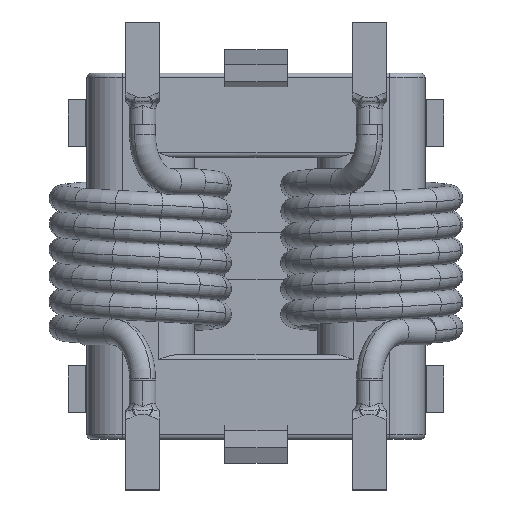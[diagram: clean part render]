
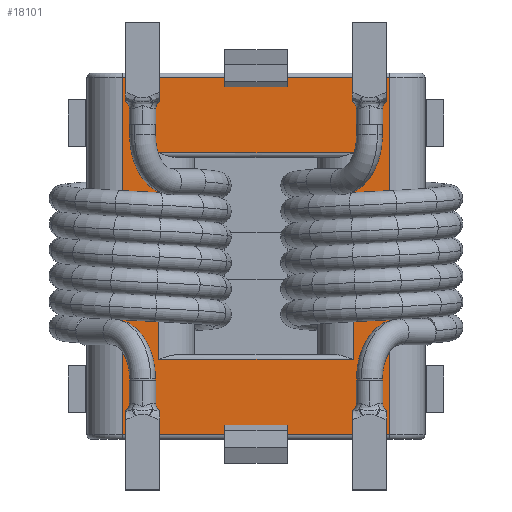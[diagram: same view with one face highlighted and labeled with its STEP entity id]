
A CAD part, top view. The second image highlights one B-rep face of the part: STEP entity #18101.
In plain terms, the highlighted planar face has unit normal (0, 0, 1).
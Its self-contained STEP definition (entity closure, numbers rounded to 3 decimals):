
#277 = VERTEX_POINT ( 'NONE', #13550 ) ;
#738 = LINE ( 'NONE', #9534, #3290 ) ;
#1318 = VECTOR ( 'NONE', #6634, 1000. ) ;
#1357 = FACE_BOUND ( 'NONE', #5530, .T. ) ;
#1484 = CARTESIAN_POINT ( 'NONE',  ( 54.624, -9.627, 3.45 ) ) ;
#1689 = LINE ( 'NONE', #3005, #15262 ) ;
#2298 = DIRECTION ( 'NONE',  ( 1., 0., 0. ) ) ;
#2526 = ORIENTED_EDGE ( 'NONE', *, *, #10356, .T. ) ;
#3005 = CARTESIAN_POINT ( 'NONE',  ( 48.424, -3.027, 3.45 ) ) ;
#3290 = VECTOR ( 'NONE', #2298, 1000. ) ;
#4034 = EDGE_CURVE ( 'NONE', #9573, #12018, #20965, .T. ) ;
#4158 = FACE_OUTER_BOUND ( 'NONE', #7008, .T. ) ;
#4275 = CARTESIAN_POINT ( 'NONE',  ( 60.824, -9.627, 3.45 ) ) ;
#4548 = CARTESIAN_POINT ( 'NONE',  ( 63.174, 8.373, 3.45 ) ) ;
#4832 = VERTEX_POINT ( 'NONE', #15392 ) ;
#4948 = CARTESIAN_POINT ( 'NONE',  ( 48.424, -9.627, 3.45 ) ) ;
#5260 = LINE ( 'NONE', #8369, #1318 ) ;
#5347 = DIRECTION ( 'NONE',  ( 1., 0., 0. ) ) ;
#5530 = EDGE_LOOP ( 'NONE', ( #19145, #15292, #14023, #17639 ) ) ;
#5923 = ORIENTED_EDGE ( 'NONE', *, *, #4034, .T. ) ;
#6212 = PLANE ( 'NONE',  #9936 ) ;
#6574 = EDGE_CURVE ( 'NONE', #13594, #4832, #1689, .T. ) ;
#6634 = DIRECTION ( 'NONE',  ( 0., -1., 0. ) ) ;
#6719 = VECTOR ( 'NONE', #10580, 1000. ) ;
#7008 = EDGE_LOOP ( 'NONE', ( #2526, #15979, #8872, #5923 ) ) ;
#7112 = CARTESIAN_POINT ( 'NONE',  ( 63.174, -14.427, 3.45 ) ) ;
#8207 = EDGE_CURVE ( 'NONE', #4832, #277, #738, .T. ) ;
#8316 = VERTEX_POINT ( 'NONE', #22876 ) ;
#8369 = CARTESIAN_POINT ( 'NONE',  ( 46.074, -14.727, 3.45 ) ) ;
#8403 = EDGE_CURVE ( 'NONE', #8533, #8316, #5260, .T. ) ;
#8533 = VERTEX_POINT ( 'NONE', #14666 ) ;
#8872 = ORIENTED_EDGE ( 'NONE', *, *, #16430, .T. ) ;
#9080 = LINE ( 'NONE', #1484, #14174 ) ;
#9534 = CARTESIAN_POINT ( 'NONE',  ( 54.624, 3.573, 3.45 ) ) ;
#9573 = VERTEX_POINT ( 'NONE', #21929 ) ;
#9822 = CARTESIAN_POINT ( 'NONE',  ( 54.624, -3.027, 3.45 ) ) ;
#9936 = AXIS2_PLACEMENT_3D ( 'NONE', #9822, #22471, #11676 ) ;
#10356 = EDGE_CURVE ( 'NONE', #12018, #8533, #17023, .T. ) ;
#10580 = DIRECTION ( 'NONE',  ( 0., -1., 0. ) ) ;
#11225 = LINE ( 'NONE', #19705, #6719 ) ;
#11631 = EDGE_CURVE ( 'NONE', #22280, #13594, #9080, .T. ) ;
#11676 = DIRECTION ( 'NONE',  ( 1., 0., 0. ) ) ;
#12018 = VERTEX_POINT ( 'NONE', #4548 ) ;
#12643 = LINE ( 'NONE', #7112, #13211 ) ;
#13211 = VECTOR ( 'NONE', #5347, 1000. ) ;
#13337 = DIRECTION ( 'NONE',  ( 0., 1., 0. ) ) ;
#13388 = VECTOR ( 'NONE', #17079, 1000. ) ;
#13550 = CARTESIAN_POINT ( 'NONE',  ( 60.824, 3.573, 3.45 ) ) ;
#13594 = VERTEX_POINT ( 'NONE', #4948 ) ;
#14023 = ORIENTED_EDGE ( 'NONE', *, *, #18302, .T. ) ;
#14174 = VECTOR ( 'NONE', #17968, 1000. ) ;
#14666 = CARTESIAN_POINT ( 'NONE',  ( 46.074, 8.373, 3.45 ) ) ;
#15262 = VECTOR ( 'NONE', #22574, 1000. ) ;
#15292 = ORIENTED_EDGE ( 'NONE', *, *, #8207, .T. ) ;
#15392 = CARTESIAN_POINT ( 'NONE',  ( 48.424, 3.573, 3.45 ) ) ;
#15438 = CARTESIAN_POINT ( 'NONE',  ( 46.074, 8.373, 3.45 ) ) ;
#15979 = ORIENTED_EDGE ( 'NONE', *, *, #8403, .T. ) ;
#16430 = EDGE_CURVE ( 'NONE', #8316, #9573, #12643, .T. ) ;
#17023 = LINE ( 'NONE', #15438, #13388 ) ;
#17079 = DIRECTION ( 'NONE',  ( -1., 0., 0. ) ) ;
#17639 = ORIENTED_EDGE ( 'NONE', *, *, #11631, .T. ) ;
#17845 = VECTOR ( 'NONE', #13337, 1000. ) ;
#17968 = DIRECTION ( 'NONE',  ( -1., 0., 0. ) ) ;
#18101 = ADVANCED_FACE ( 'NONE', ( #4158, #1357 ), #6212, .T. ) ;
#18302 = EDGE_CURVE ( 'NONE', #277, #22280, #11225, .T. ) ;
#18846 = CARTESIAN_POINT ( 'NONE',  ( 63.174, 8.673, 3.45 ) ) ;
#19145 = ORIENTED_EDGE ( 'NONE', *, *, #6574, .T. ) ;
#19705 = CARTESIAN_POINT ( 'NONE',  ( 60.824, -3.027, 3.45 ) ) ;
#20965 = LINE ( 'NONE', #18846, #17845 ) ;
#21929 = CARTESIAN_POINT ( 'NONE',  ( 63.174, -14.427, 3.45 ) ) ;
#22280 = VERTEX_POINT ( 'NONE', #4275 ) ;
#22471 = DIRECTION ( 'NONE',  ( 0., 0., 1. ) ) ;
#22574 = DIRECTION ( 'NONE',  ( 0., 1., 0. ) ) ;
#22876 = CARTESIAN_POINT ( 'NONE',  ( 46.074, -14.427, 3.45 ) ) ;
